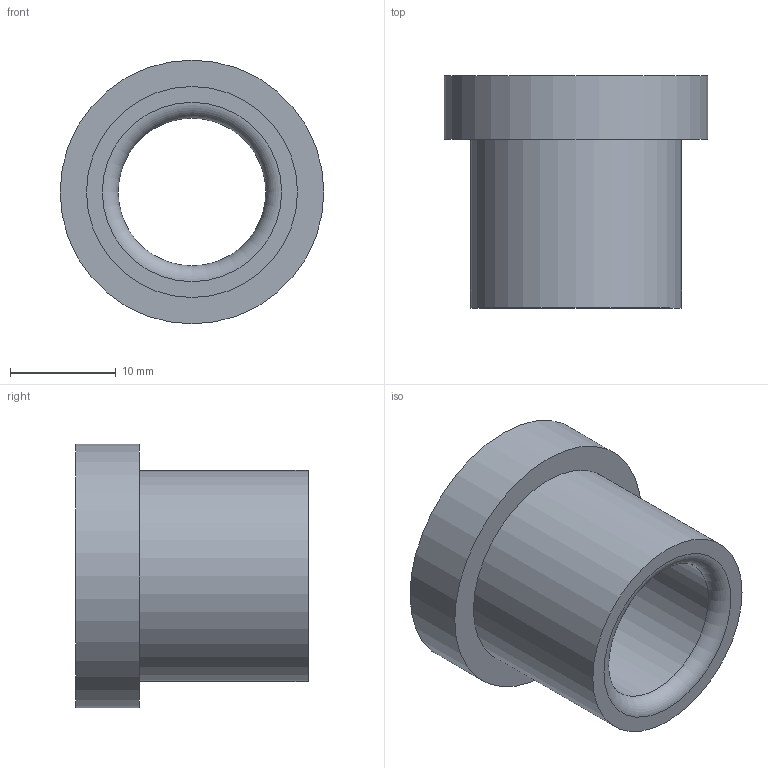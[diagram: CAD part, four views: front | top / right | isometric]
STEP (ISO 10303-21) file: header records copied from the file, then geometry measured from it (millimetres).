
FILE_DESCRIPTION(/* description */ ('STEP AP214'),/* implementation_level */ '2;1');
FILE_NAME(/* name */ '03_12_17904',/* time_stamp */ '2023-06-15T11:35:23+02:00',/* author */ ('License CC BY-ND 4.0'),/* organization */ ('CADENAS'),/* preprocessor_version */ 'ST-DEVELOPER v19.3',/* originating_system */ 'PARTsolutions',/* authorisation */ ' ');
FILE_SCHEMA (('AUTOMOTIVE_DESIGN {1 0 10303 214 3 1 1}'));
Length unit declared in the file: millimetre
Products named in the file (1): VA_Bushing_17904
Bounding box: 25 x 22 x 25 mm (x, y, z)
Volume: 4480.4 mm3; surface area: 3070.5 mm2
Topology: 1 solids, 1 shells, 10 faces, 16 edges, 10 vertices
Faces by surface type: cylinder 4, plane 4, torus 2
Full cylindrical faces by diameter (mm): 14 x1, 14.6 x1, 20 x1, 25 x1
Entity records: 302 total; most frequent: DIRECTION 42, CARTESIAN_POINT 31, AXIS2_PLACEMENT_3D 21, ORIENTED_EDGE 20, EDGE_LOOP 20, FACE_BOUND 20, EDGE_CURVE 10, VERTEX_POINT 10
